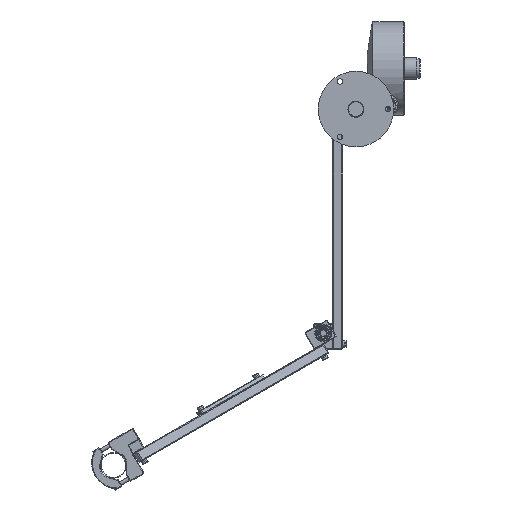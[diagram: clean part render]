
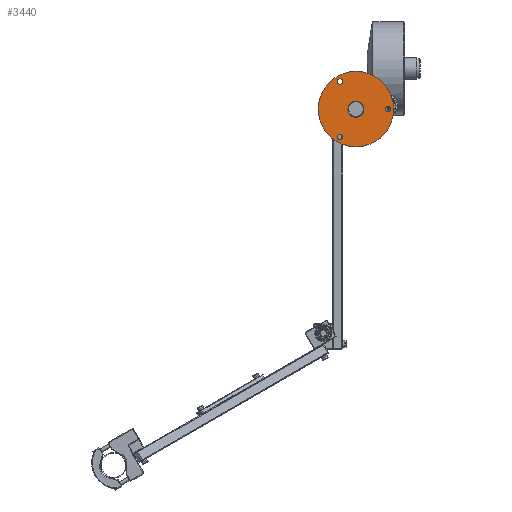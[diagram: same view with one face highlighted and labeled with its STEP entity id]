
A CAD part, front view. The second image highlights one B-rep face of the part: STEP entity #3440.
In plain terms, the highlighted planar face has unit normal (0, -1, 0).
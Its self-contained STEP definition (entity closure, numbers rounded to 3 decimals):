
#3440 = ADVANCED_FACE( '', ( #6852, #6853, #6854, #6855, #6856 ), #6857, .F. );
#6852 = FACE_BOUND( '', #10663, .T. );
#6853 = FACE_BOUND( '', #10664, .T. );
#6854 = FACE_OUTER_BOUND( '', #10665, .T. );
#6855 = FACE_BOUND( '', #10666, .T. );
#6856 = FACE_BOUND( '', #10667, .T. );
#6857 = PLANE( '', #10668 );
#10663 = EDGE_LOOP( '', ( #17676 ) );
#10664 = EDGE_LOOP( '', ( #17677 ) );
#10665 = EDGE_LOOP( '', ( #17678 ) );
#10666 = EDGE_LOOP( '', ( #17679 ) );
#10667 = EDGE_LOOP( '', ( #17680 ) );
#10668 = AXIS2_PLACEMENT_3D( '', #17681, #17682, #17683 );
#17676 = ORIENTED_EDGE( '', *, *, #23047, .F. );
#17677 = ORIENTED_EDGE( '', *, *, #21580, .F. );
#17678 = ORIENTED_EDGE( '', *, *, #23006, .T. );
#17679 = ORIENTED_EDGE( '', *, *, #23045, .F. );
#17680 = ORIENTED_EDGE( '', *, *, #22937, .F. );
#17681 = CARTESIAN_POINT( '', ( -9.573, 11.469, 0. ) );
#17682 = DIRECTION( '', ( 0., 1., 0. ) );
#17683 = DIRECTION( '', ( -1., 0., 0. ) );
#21580 = EDGE_CURVE( '', #25332, #25332, #25333, .F. );
#22937 = EDGE_CURVE( '', #27261, #27261, #27262, .F. );
#23006 = EDGE_CURVE( '', #27351, #27351, #27352, .T. );
#23045 = EDGE_CURVE( '', #27402, #27402, #27403, .T. );
#23047 = EDGE_CURVE( '', #27405, #27405, #27406, .F. );
#25332 = VERTEX_POINT( '', #31039 );
#25333 = CIRCLE( '', #31040, 4.25 );
#27261 = VERTEX_POINT( '', #34954 );
#27262 = CIRCLE( '', #34955, 4.25 );
#27351 = VERTEX_POINT( '', #35195 );
#27352 = CIRCLE( '', #35196, 59. );
#27402 = VERTEX_POINT( '', #35339 );
#27403 = CIRCLE( '', #35340, 12.5 );
#27405 = VERTEX_POINT( '', #35342 );
#27406 = CIRCLE( '', #35343, 4.25 );
#31039 = CARTESIAN_POINT( '', ( 26.552, 11.469, -39.621 ) );
#31040 = AXIS2_PLACEMENT_3D( '', #37766, #37767, #37768 );
#34954 = CARTESIAN_POINT( '', ( 95.177, 11.469, 0. ) );
#34955 = AXIS2_PLACEMENT_3D( '', #39267, #39268, #39269 );
#35195 = CARTESIAN_POINT( '', ( 108.427, 11.469, 0. ) );
#35196 = AXIS2_PLACEMENT_3D( '', #39340, #39341, #39342 );
#35339 = CARTESIAN_POINT( '', ( 61.927, 11.469, 0. ) );
#35340 = AXIS2_PLACEMENT_3D( '', #39376, #39377, #39378 );
#35342 = CARTESIAN_POINT( '', ( 26.552, 11.469, 39.621 ) );
#35343 = AXIS2_PLACEMENT_3D( '', #39379, #39380, #39381 );
#37766 = CARTESIAN_POINT( '', ( 24.427, 11.469, -43.301 ) );
#37767 = DIRECTION( '', ( 0., 1., 0. ) );
#37768 = DIRECTION( '', ( 0.5, 0., 0.866 ) );
#39267 = CARTESIAN_POINT( '', ( 99.427, 11.469, 0. ) );
#39268 = DIRECTION( '', ( 0., 1., 0. ) );
#39269 = DIRECTION( '', ( -1., 0., 0. ) );
#39340 = CARTESIAN_POINT( '', ( 49.427, 11.469, 0. ) );
#39341 = DIRECTION( '', ( 0., -1., 0. ) );
#39342 = DIRECTION( '', ( 1., 0., 0. ) );
#39376 = CARTESIAN_POINT( '', ( 49.427, 11.469, 0. ) );
#39377 = DIRECTION( '', ( 0., -1., 0. ) );
#39378 = DIRECTION( '', ( 1., 0., 0. ) );
#39379 = CARTESIAN_POINT( '', ( 24.427, 11.469, 43.301 ) );
#39380 = DIRECTION( '', ( 0., 1., 0. ) );
#39381 = DIRECTION( '', ( 0.5, 0., -0.866 ) );
